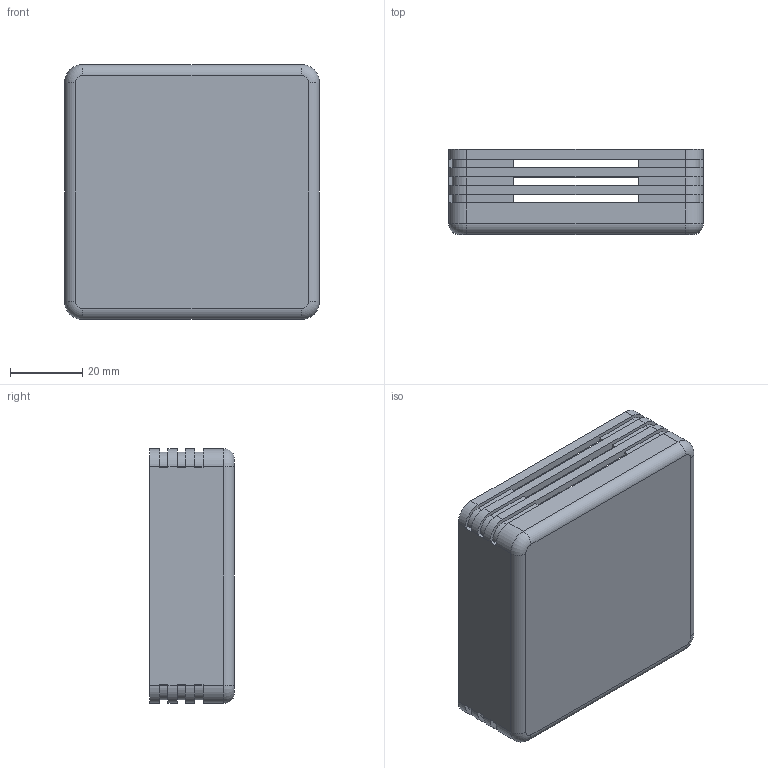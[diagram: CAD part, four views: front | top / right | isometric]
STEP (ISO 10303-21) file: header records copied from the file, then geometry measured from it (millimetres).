
FILE_DESCRIPTION (( 'STEP AP214' ), '1' );
FILE_NAME ('Cos PP42.STEP', '2016-09-09T10:07:15', ( 'aaa' ), ( '' ), 'SwSTEP 2.0', 'SolidWorks 2013', '' );
FILE_SCHEMA (( 'AUTOMOTIVE_DESIGN' ));
Length unit declared in the file: millimetre
Products named in the file (1): Cos PP42
Bounding box: 70.5 x 23.5 x 70.5 mm (x, y, z)
Volume: 19878.2 mm3; surface area: 22905.5 mm2
Topology: 1 solids, 1 shells, 161 faces, 440 edges, 288 vertices
Faces by surface type: plane 89, cylinder 56, cone 8, torus 8
Entity records: 5160 total; most frequent: DIRECTION 900, CARTESIAN_POINT 890, ORIENTED_EDGE 880, EDGE_CURVE 440, VECTOR 304, LINE 304, AXIS2_PLACEMENT_3D 298, VERTEX_POINT 288
